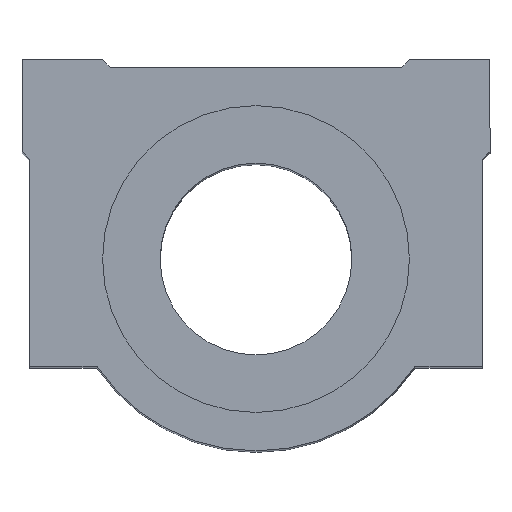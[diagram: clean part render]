
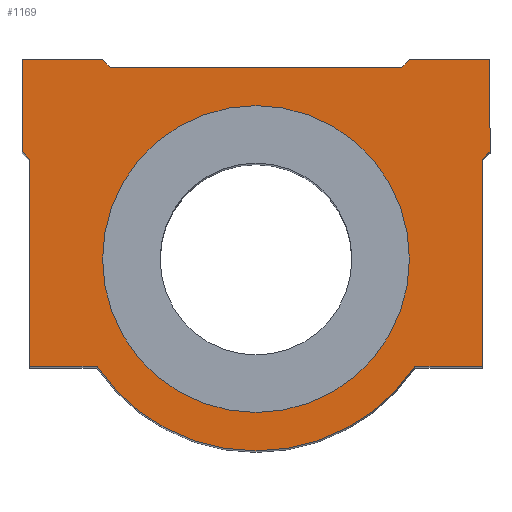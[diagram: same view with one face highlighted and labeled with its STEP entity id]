
A CAD part, top view. The second image highlights one B-rep face of the part: STEP entity #1169.
In plain terms, the highlighted planar face has unit normal (0, 0, 1).
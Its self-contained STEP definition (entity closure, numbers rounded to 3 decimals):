
#91=CARTESIAN_POINT('',(-40.709,4.198,228.));
#92=VERTEX_POINT('',#91);
#101=CARTESIAN_POINT('',(39.291,4.198,228.0));
#102=VERTEX_POINT('',#101);
#103=CARTESIAN_POINT('',(-0.709,4.198,228.));
#104=DIRECTION('',(0.0,0.0,-1.0));
#105=DIRECTION('',(-1.0,0.0,0.0));
#106=AXIS2_PLACEMENT_3D('',#103,#104,#105);
#107=CIRCLE('',#106,40.0);
#108=EDGE_CURVE('',#102,#92,#107,.T.);
#640=CARTESIAN_POINT('',(-0.709,4.198,228.));
#641=DIRECTION('',(0.0,0.0,-1.0));
#642=DIRECTION('',(-1.0,0.0,0.0));
#643=AXIS2_PLACEMENT_3D('',#640,#641,#642);
#644=CIRCLE('',#643,40.0);
#645=EDGE_CURVE('',#92,#102,#644,.T.);
#780=CARTESIAN_POINT('',(60.291,32.198,228.));
#781=VERTEX_POINT('',#780);
#782=CARTESIAN_POINT('',(58.291,30.198,228.));
#783=VERTEX_POINT('',#782);
#784=CARTESIAN_POINT('',(60.291,32.198,228.));
#785=DIRECTION('',(-0.707,-0.707,0.0));
#786=VECTOR('',#785,2.828);
#787=LINE('',#784,#786);
#788=EDGE_CURVE('',#781,#783,#787,.T.);
#811=CARTESIAN_POINT('',(58.291,-23.802,228.));
#812=VERTEX_POINT('',#811);
#813=CARTESIAN_POINT('',(58.291,30.198,228.));
#814=DIRECTION('',(0.0,-1.0,0.0));
#815=VECTOR('',#814,54.);
#816=LINE('',#813,#815);
#817=EDGE_CURVE('',#783,#812,#816,.T.);
#835=CARTESIAN_POINT('',(40.716,-23.802,228.));
#836=VERTEX_POINT('',#835);
#837=CARTESIAN_POINT('',(58.291,-23.802,228.));
#838=DIRECTION('',(-1.0,0.0,0.0));
#839=VECTOR('',#838,17.575);
#840=LINE('',#837,#839);
#841=EDGE_CURVE('',#812,#836,#840,.T.);
#867=CARTESIAN_POINT('',(-42.133,-23.802,228.));
#868=VERTEX_POINT('',#867);
#869=CARTESIAN_POINT('',(-0.709,4.198,228.0));
#870=DIRECTION('',(0.0,0.0,-1.));
#871=DIRECTION('',(0.828,0.56,0.0));
#872=AXIS2_PLACEMENT_3D('',#869,#870,#871);
#873=CIRCLE('',#872,50.0);
#874=EDGE_CURVE('',#836,#868,#873,.T.);
#892=CARTESIAN_POINT('',(-59.709,-23.802,228.));
#893=VERTEX_POINT('',#892);
#894=CARTESIAN_POINT('',(-42.133,-23.802,228.));
#895=DIRECTION('',(-1.0,0.0,0.0));
#896=VECTOR('',#895,17.575);
#897=LINE('',#894,#896);
#898=EDGE_CURVE('',#868,#893,#897,.T.);
#924=CARTESIAN_POINT('',(-59.709,30.198,228.));
#925=VERTEX_POINT('',#924);
#926=CARTESIAN_POINT('',(-59.709,-23.802,228.));
#927=DIRECTION('',(0.0,1.0,0.0));
#928=VECTOR('',#927,54.);
#929=LINE('',#926,#928);
#930=EDGE_CURVE('',#893,#925,#929,.T.);
#948=CARTESIAN_POINT('',(-61.709,32.198,228.));
#949=VERTEX_POINT('',#948);
#950=CARTESIAN_POINT('',(-59.709,30.198,228.));
#951=DIRECTION('',(-0.707,0.707,0.0));
#952=VECTOR('',#951,2.828);
#953=LINE('',#950,#952);
#954=EDGE_CURVE('',#925,#949,#953,.T.);
#972=CARTESIAN_POINT('',(-61.709,56.198,228.));
#973=VERTEX_POINT('',#972);
#974=CARTESIAN_POINT('',(-61.709,32.198,228.));
#975=DIRECTION('',(0.0,1.0,0.0));
#976=VECTOR('',#975,24.0);
#977=LINE('',#974,#976);
#978=EDGE_CURVE('',#949,#973,#977,.T.);
#996=CARTESIAN_POINT('',(-40.709,56.198,228.));
#997=VERTEX_POINT('',#996);
#998=CARTESIAN_POINT('',(-61.709,56.198,228.));
#999=DIRECTION('',(1.0,0.0,0.0));
#1000=VECTOR('',#999,21.);
#1001=LINE('',#998,#1000);
#1002=EDGE_CURVE('',#973,#997,#1001,.T.);
#1028=CARTESIAN_POINT('',(-38.709,54.198,228.));
#1029=VERTEX_POINT('',#1028);
#1030=CARTESIAN_POINT('',(-40.709,56.198,228.));
#1031=DIRECTION('',(0.707,-0.707,0.0));
#1032=VECTOR('',#1031,2.828);
#1033=LINE('',#1030,#1032);
#1034=EDGE_CURVE('',#997,#1029,#1033,.T.);
#1052=CARTESIAN_POINT('',(37.291,54.198,228.));
#1053=VERTEX_POINT('',#1052);
#1054=CARTESIAN_POINT('',(-38.709,54.198,228.));
#1055=DIRECTION('',(1.0,0.0,0.0));
#1056=VECTOR('',#1055,76.0);
#1057=LINE('',#1054,#1056);
#1058=EDGE_CURVE('',#1029,#1053,#1057,.T.);
#1076=CARTESIAN_POINT('',(39.291,56.198,228.));
#1077=VERTEX_POINT('',#1076);
#1078=CARTESIAN_POINT('',(37.291,54.198,228.));
#1079=DIRECTION('',(0.707,0.707,0.0));
#1080=VECTOR('',#1079,2.828);
#1081=LINE('',#1078,#1080);
#1082=EDGE_CURVE('',#1053,#1077,#1081,.T.);
#1100=CARTESIAN_POINT('',(60.291,56.198,228.));
#1101=VERTEX_POINT('',#1100);
#1102=CARTESIAN_POINT('',(39.291,56.198,228.));
#1103=DIRECTION('',(1.0,0.0,0.0));
#1104=VECTOR('',#1103,21.);
#1105=LINE('',#1102,#1104);
#1106=EDGE_CURVE('',#1077,#1101,#1105,.T.);
#1132=CARTESIAN_POINT('',(60.291,56.198,228.));
#1133=DIRECTION('',(0.0,-1.0,0.0));
#1134=VECTOR('',#1133,24.0);
#1135=LINE('',#1132,#1134);
#1136=EDGE_CURVE('',#1101,#781,#1135,.T.);
#1144=CARTESIAN_POINT('',(-0.709,11.973,228.));
#1145=DIRECTION('',(0.0,0.0,1.0));
#1146=DIRECTION('',(1.0,0.0,0.0));
#1147=AXIS2_PLACEMENT_3D('',#1144,#1145,#1146);
#1148=PLANE('',#1147);
#1149=ORIENTED_EDGE('',*,*,#788,.F.);
#1150=ORIENTED_EDGE('',*,*,#1136,.F.);
#1151=ORIENTED_EDGE('',*,*,#1106,.F.);
#1152=ORIENTED_EDGE('',*,*,#1082,.F.);
#1153=ORIENTED_EDGE('',*,*,#1058,.F.);
#1154=ORIENTED_EDGE('',*,*,#1034,.F.);
#1155=ORIENTED_EDGE('',*,*,#1002,.F.);
#1156=ORIENTED_EDGE('',*,*,#978,.F.);
#1157=ORIENTED_EDGE('',*,*,#954,.F.);
#1158=ORIENTED_EDGE('',*,*,#930,.F.);
#1159=ORIENTED_EDGE('',*,*,#898,.F.);
#1160=ORIENTED_EDGE('',*,*,#874,.F.);
#1161=ORIENTED_EDGE('',*,*,#841,.F.);
#1162=ORIENTED_EDGE('',*,*,#817,.F.);
#1163=EDGE_LOOP('',(#1149,#1150,#1151,#1152,#1153,#1154,#1155,#1156,#1157,#1158,#1159,#1160,#1161,#1162));
#1164=FACE_OUTER_BOUND('',#1163,.T.);
#1165=ORIENTED_EDGE('',*,*,#108,.T.);
#1166=ORIENTED_EDGE('',*,*,#645,.T.);
#1167=EDGE_LOOP('',(#1165,#1166));
#1168=FACE_BOUND('',#1167,.T.);
#1169=ADVANCED_FACE('',(#1164,#1168),#1148,.T.);
